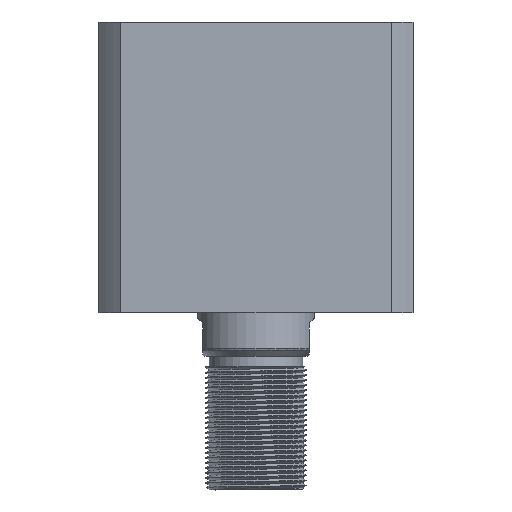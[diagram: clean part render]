
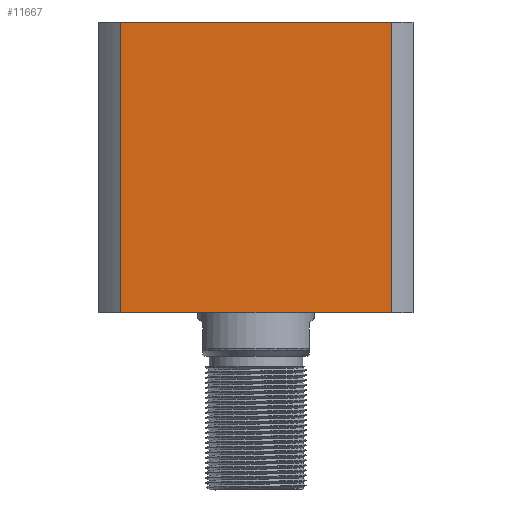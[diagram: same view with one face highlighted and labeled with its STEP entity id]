
A CAD part, front view. The second image highlights one B-rep face of the part: STEP entity #11667.
In plain terms, the highlighted planar face has unit normal (0, -1, 0) as drawn and (0, 1, 0) by its records, which use the part's own axes.
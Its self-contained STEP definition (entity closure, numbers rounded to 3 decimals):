
#589 = AXIS2_PLACEMENT_3D ( 'NONE', #20405, #8365, #13675 ) ;
#1350 = VECTOR ( 'NONE', #7827, 1000. ) ;
#1554 = CARTESIAN_POINT ( 'NONE',  ( 40.435, 47., -213. ) ) ;
#2603 = CARTESIAN_POINT ( 'NONE',  ( 40.435, 47., 0. ) ) ;
#3861 = ORIENTED_EDGE ( 'NONE', *, *, #3955, .F. ) ;
#3955 = EDGE_CURVE ( 'NONE', #4951, #21820, #21914, .T. ) ;
#4860 = VECTOR ( 'NONE', #13531, 1000. ) ;
#4951 = VERTEX_POINT ( 'NONE', #2603 ) ;
#4982 = ORIENTED_EDGE ( 'NONE', *, *, #19620, .T. ) ;
#7170 = ORIENTED_EDGE ( 'NONE', *, *, #18222, .F. ) ;
#7827 = DIRECTION ( 'NONE',  ( 0., 0., -1. ) ) ;
#7872 = VECTOR ( 'NONE', #14392, 1000. ) ;
#8365 = DIRECTION ( 'NONE',  ( 0., -1., 0. ) ) ;
#10951 = CARTESIAN_POINT ( 'NONE',  ( -47., 47., 87. ) ) ;
#11441 = EDGE_CURVE ( 'NONE', #13456, #16422, #19296, .T. ) ;
#11667 = ADVANCED_FACE ( 'NONE', ( #18250 ), #11919, .F. ) ;
#11919 = PLANE ( 'NONE',  #589 ) ;
#13163 = CARTESIAN_POINT ( 'NONE',  ( -40.435, 47., -213. ) ) ;
#13456 = VERTEX_POINT ( 'NONE', #22157 ) ;
#13531 = DIRECTION ( 'NONE',  ( -1., 0., 0. ) ) ;
#13675 = DIRECTION ( 'NONE',  ( 0., 0., -1. ) ) ;
#14186 = LINE ( 'NONE', #20253, #4860 ) ;
#14392 = DIRECTION ( 'NONE',  ( -1., 0., 0. ) ) ;
#14809 = EDGE_LOOP ( 'NONE', ( #3861, #4982, #19316, #7170 ) ) ;
#16422 = VERTEX_POINT ( 'NONE', #21184 ) ;
#17150 = LINE ( 'NONE', #10951, #7872 ) ;
#18104 = CARTESIAN_POINT ( 'NONE',  ( 40.435, 47., 87. ) ) ;
#18222 = EDGE_CURVE ( 'NONE', #21820, #13456, #17150, .T. ) ;
#18250 = FACE_OUTER_BOUND ( 'NONE', #14809, .T. ) ;
#19296 = LINE ( 'NONE', #13163, #1350 ) ;
#19316 = ORIENTED_EDGE ( 'NONE', *, *, #11441, .F. ) ;
#19620 = EDGE_CURVE ( 'NONE', #4951, #16422, #14186, .T. ) ;
#20066 = DIRECTION ( 'NONE',  ( 0., 0., 1. ) ) ;
#20253 = CARTESIAN_POINT ( 'NONE',  ( -47., 47., 0. ) ) ;
#20405 = CARTESIAN_POINT ( 'NONE',  ( -47., 47., 87. ) ) ;
#21184 = CARTESIAN_POINT ( 'NONE',  ( -40.435, 47., 0. ) ) ;
#21384 = VECTOR ( 'NONE', #20066, 1000. ) ;
#21820 = VERTEX_POINT ( 'NONE', #18104 ) ;
#21914 = LINE ( 'NONE', #1554, #21384 ) ;
#22157 = CARTESIAN_POINT ( 'NONE',  ( -40.435, 47., 87. ) ) ;
